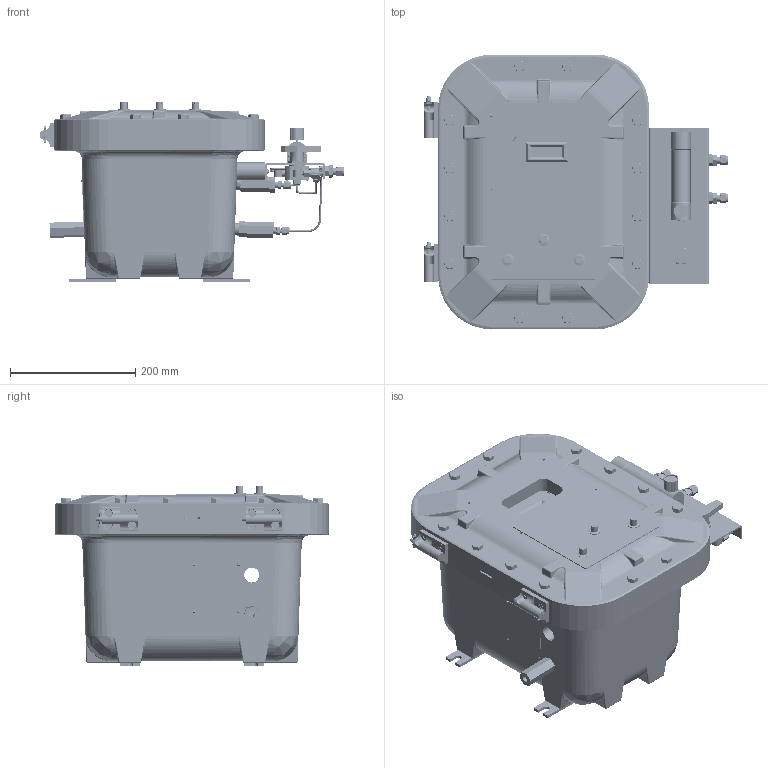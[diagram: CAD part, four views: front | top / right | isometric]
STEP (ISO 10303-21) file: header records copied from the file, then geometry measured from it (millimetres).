
FILE_DESCRIPTION (( 'STEP AP214' ), '1' );
FILE_NAME ('GPR-x8.STEP', '2025-10-17T18:31:14', ( '' ), ( '' ), 'SwSTEP 2.0', 'SolidWorks 2025', '' );
FILE_SCHEMA (( 'AUTOMOTIVE_DESIGN' ));
Length unit declared in the file: inch
Products named in the file (1): GPR-x8
Bounding box: 485.93 x 438.15 x 286.53 mm (x, y, z)
Volume: 10741666.7 mm3; surface area: 1587299 mm2
Topology: 139 solids, 140 shells, 9378 faces, 25215 edges, 16491 vertices
Faces by surface type: plane 3530, cylinder 2750, bspline 1673, cone 1257, torus 124, sphere 44
Entity records: 396812 total; most frequent: CARTESIAN_POINT 178231, ORIENTED_EDGE 50222, DIRECTION 38341, EDGE_CURVE 25111, VERTEX_POINT 16491, AXIS2_PLACEMENT_3D 13241, LINE 11859, VECTOR 11859
